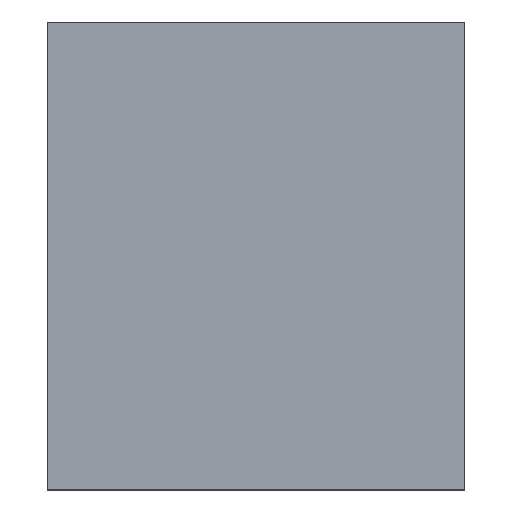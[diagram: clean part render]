
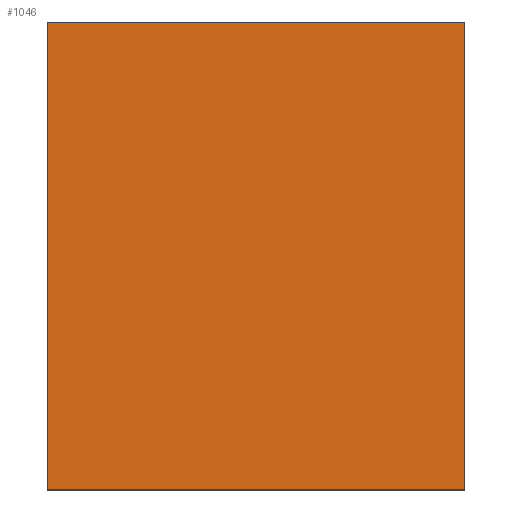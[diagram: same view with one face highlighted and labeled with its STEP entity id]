
A CAD part, top view. The second image highlights one B-rep face of the part: STEP entity #1046.
In plain terms, the highlighted planar face has unit normal (0, 0, 1).
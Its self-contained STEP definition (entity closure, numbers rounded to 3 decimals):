
#52=FACE_OUTER_BOUND('',#108,.T.);
#108=EDGE_LOOP('',(#810,#811,#812,#813));
#162=LINE('',#1471,#303);
#172=LINE('',#1493,#313);
#235=LINE('',#1617,#376);
#236=LINE('',#1618,#377);
#303=VECTOR('',#1193,10.);
#313=VECTOR('',#1207,10.);
#376=VECTOR('',#1298,10.);
#377=VECTOR('',#1299,10.);
#438=VERTEX_POINT('',#1468);
#439=VERTEX_POINT('',#1470);
#448=VERTEX_POINT('',#1490);
#449=VERTEX_POINT('',#1492);
#542=EDGE_CURVE('',#439,#438,#162,.T.);
#552=EDGE_CURVE('',#449,#448,#172,.T.);
#617=EDGE_CURVE('',#448,#439,#235,.T.);
#618=EDGE_CURVE('',#438,#449,#236,.T.);
#810=ORIENTED_EDGE('',*,*,#552,.T.);
#811=ORIENTED_EDGE('',*,*,#617,.T.);
#812=ORIENTED_EDGE('',*,*,#542,.T.);
#813=ORIENTED_EDGE('',*,*,#618,.T.);
#996=PLANE('',#1116);
#1046=ADVANCED_FACE('',(#52),#996,.T.);
#1116=AXIS2_PLACEMENT_3D('',#1616,#1296,#1297);
#1193=DIRECTION('',(-1.,0.,0.));
#1207=DIRECTION('',(1.,0.,0.));
#1296=DIRECTION('center_axis',(0.,0.,1.));
#1297=DIRECTION('ref_axis',(1.,0.,0.));
#1298=DIRECTION('',(0.,1.,0.));
#1299=DIRECTION('',(0.,-1.,0.));
#1468=CARTESIAN_POINT('',(0.,88.,29.2));
#1470=CARTESIAN_POINT('',(63.,88.,29.2));
#1471=CARTESIAN_POINT('',(63.,88.,29.2));
#1490=CARTESIAN_POINT('',(63.,17.5,29.2));
#1492=CARTESIAN_POINT('',(0.,17.5,29.2));
#1493=CARTESIAN_POINT('',(15.75,17.5,29.2));
#1616=CARTESIAN_POINT('Origin',(31.5,44.,29.2));
#1617=CARTESIAN_POINT('',(63.,0.,29.2));
#1618=CARTESIAN_POINT('',(0.,88.,29.2));
